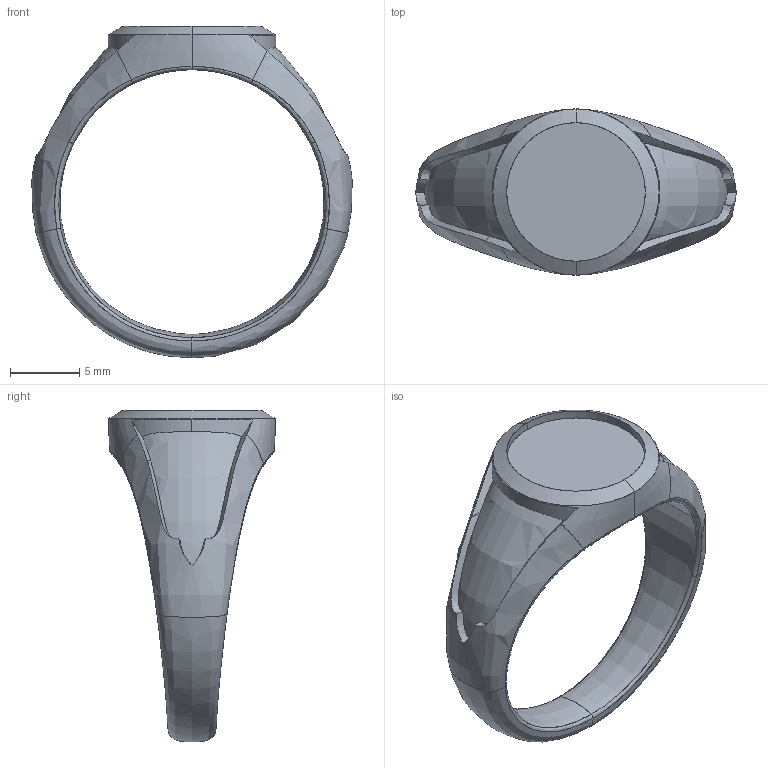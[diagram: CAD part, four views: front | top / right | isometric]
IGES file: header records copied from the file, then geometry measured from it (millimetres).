
Global section: file name: C:\Users\a\Desktop\; native system: Rhinoceros ( Aug 10 2015 ); preprocessor: Trout Lake IGES 012 Aug 10 2015; date: 210705.053456; units: millimetre
Bounding box: 23.13 x 12 x 23.92 mm (x, y, z)
Surface area: 1170.3 mm2 (no closed solid volume)
Topology: 0 solids, 0 shells, 68 faces, 2162 edges, 2162 vertices
Faces by surface type: bspline 68
